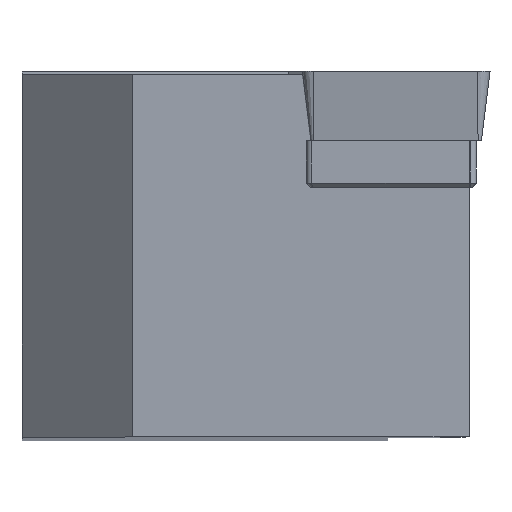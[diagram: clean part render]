
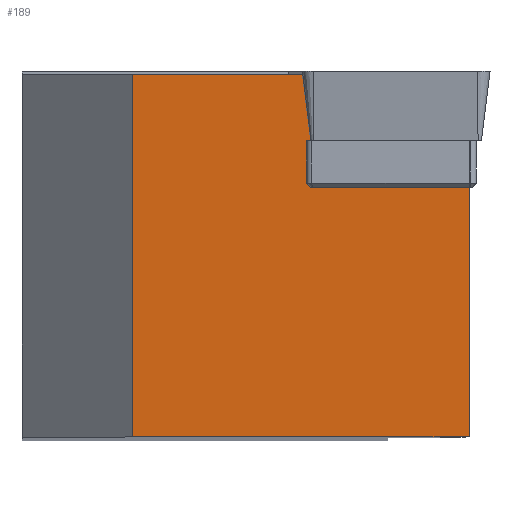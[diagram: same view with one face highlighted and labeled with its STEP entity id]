
A CAD part, top view. The second image highlights one B-rep face of the part: STEP entity #189.
In plain terms, the highlighted planar face has unit normal (-0.087, 0, 0.996).
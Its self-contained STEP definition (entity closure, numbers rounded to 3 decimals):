
#189=ADVANCED_FACE('',(#251),#216,.F.);
#216=PLANE('',#847);
#251=FACE_OUTER_BOUND('',#298,.T.);
#298=EDGE_LOOP('',(#477,#478,#479,#480));
#477=ORIENTED_EDGE('',*,*,#642,.T.);
#478=ORIENTED_EDGE('',*,*,#637,.T.);
#479=ORIENTED_EDGE('',*,*,#643,.T.);
#480=ORIENTED_EDGE('',*,*,#624,.F.);
#533=VERTEX_POINT('',#1196);
#539=VERTEX_POINT('',#1207);
#547=VERTEX_POINT('',#1233);
#548=VERTEX_POINT('',#1235);
#624=EDGE_CURVE('',#539,#533,#694,.T.);
#637=EDGE_CURVE('',#548,#547,#707,.T.);
#642=EDGE_CURVE('',#539,#548,#712,.T.);
#643=EDGE_CURVE('',#547,#533,#713,.T.);
#694=LINE('',#1208,#764);
#707=LINE('',#1234,#777);
#712=LINE('',#1244,#782);
#713=LINE('',#1245,#783);
#764=VECTOR('',#1010,1.);
#777=VECTOR('',#1033,1.);
#782=VECTOR('',#1044,1.);
#783=VECTOR('',#1045,1.);
#847=AXIS2_PLACEMENT_3D('',#1246,#1046,#1047);
#1010=DIRECTION('',(-0.996,0.,-0.087));
#1033=DIRECTION('',(-0.996,0.,-0.087));
#1044=DIRECTION('',(0.,1.,0.));
#1045=DIRECTION('',(0.,-1.,0.));
#1046=DIRECTION('',(0.087,0.,-0.996));
#1047=DIRECTION('',(-0.996,0.,-0.087));
#1196=CARTESIAN_POINT('',(-8.445,-12.5,-2.245));
#1207=CARTESIAN_POINT('',(14.568,-12.5,-0.232));
#1208=CARTESIAN_POINT('',(-20.728,-12.5,-3.32));
#1233=CARTESIAN_POINT('',(-8.445,12.3,-2.245));
#1234=CARTESIAN_POINT('',(-20.728,12.3,-3.32));
#1235=CARTESIAN_POINT('',(14.568,12.3,-0.232));
#1244=CARTESIAN_POINT('',(14.568,-12.5,-0.232));
#1245=CARTESIAN_POINT('',(-8.445,-12.5,-2.245));
#1246=CARTESIAN_POINT('',(-20.728,-12.5,-3.32));
